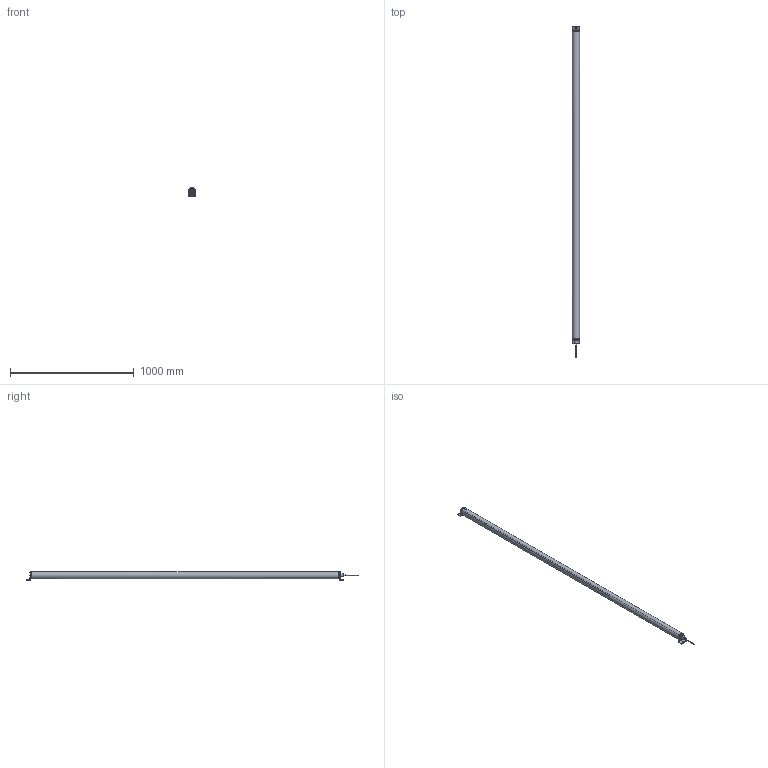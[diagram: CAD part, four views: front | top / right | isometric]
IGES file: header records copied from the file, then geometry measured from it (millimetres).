
Start section:  Autodesk DirectConnect version 7.0.27.0 ---- IGES version 5.3
Global section: file name: C:\ACADFILES\MG_PYLONS\CUSTOMER_FILES\MG-96-PYLON_3D_SMB_PT.iges; native system: Autodesk DirectConnect 7.0.27.0; preprocessor: 7.0.27.0; author: ENGINEERMAIN; organization: Unknown; date: 20150810.144102; units: inch
Bounding box: 57.29 x 2678.24 x 69.85 mm (x, y, z)
Surface area: 1796954.8 mm2 (no closed solid volume)
Topology: 0 solids, 0 shells, 784 faces, 4052 edges, 4055 vertices
Faces by surface type: bspline 784
